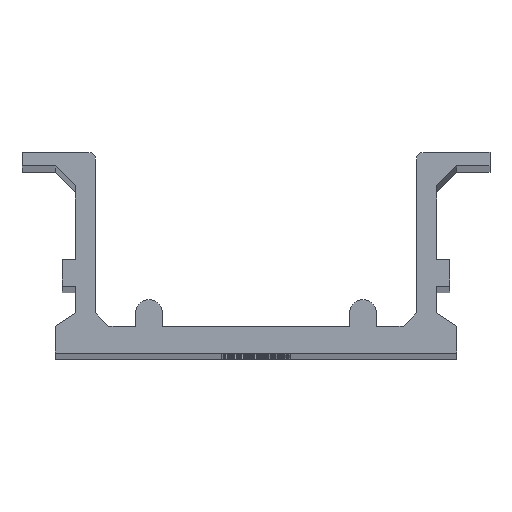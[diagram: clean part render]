
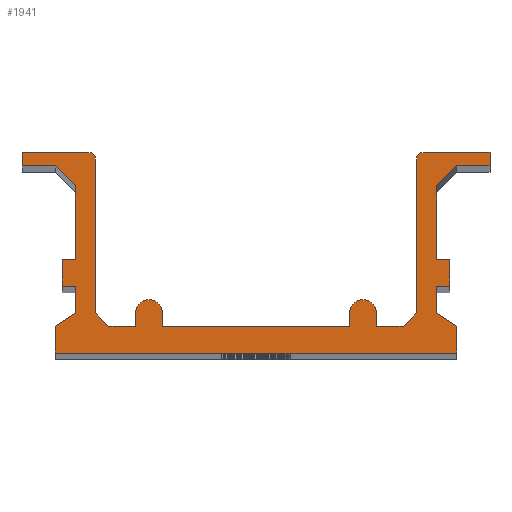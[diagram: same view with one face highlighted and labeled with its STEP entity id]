
A CAD part, top view. The second image highlights one B-rep face of the part: STEP entity #1941.
In plain terms, the highlighted planar face has unit normal (0, 0, 1).
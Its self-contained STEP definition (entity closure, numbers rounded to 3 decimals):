
#91=CIRCLE('',#2109,0.5);
#92=CIRCLE('',#2110,0.5);
#93=CIRCLE('',#2111,1.);
#94=CIRCLE('',#2112,1.);
#187=FACE_OUTER_BOUND('',#283,.T.);
#283=EDGE_LOOP('',(#1457,#1458,#1459,#1460,#1461,#1462,#1463,#1464,#1465,
#1466,#1467,#1468,#1469,#1470,#1471,#1472,#1473,#1474,#1475,#1476,#1477,
#1478,#1479,#1480,#1481,#1482,#1483,#1484,#1485,#1486,#1487,#1488,#1489,
#1490,#1491,#1492,#1493,#1494));
#455=LINE('',#3004,#673);
#456=LINE('',#3006,#674);
#457=LINE('',#3008,#675);
#458=LINE('',#3012,#676);
#459=LINE('',#3014,#677);
#460=LINE('',#3016,#678);
#461=LINE('',#3018,#679);
#462=LINE('',#3020,#680);
#463=LINE('',#3022,#681);
#464=LINE('',#3024,#682);
#465=LINE('',#3026,#683);
#466=LINE('',#3028,#684);
#467=LINE('',#3030,#685);
#468=LINE('',#3032,#686);
#469=LINE('',#3034,#687);
#470=LINE('',#3036,#688);
#471=LINE('',#3038,#689);
#472=LINE('',#3040,#690);
#473=LINE('',#3042,#691);
#474=LINE('',#3044,#692);
#475=LINE('',#3046,#693);
#476=LINE('',#3048,#694);
#477=LINE('',#3050,#695);
#478=LINE('',#3052,#696);
#479=LINE('',#3054,#697);
#480=LINE('',#3056,#698);
#481=LINE('',#3060,#699);
#482=LINE('',#3062,#700);
#483=LINE('',#3064,#701);
#484=LINE('',#3066,#702);
#485=LINE('',#3070,#703);
#486=LINE('',#3072,#704);
#487=LINE('',#3074,#705);
#488=LINE('',#3077,#706);
#673=VECTOR('',#2464,10.);
#674=VECTOR('',#2465,10.);
#675=VECTOR('',#2466,10.);
#676=VECTOR('',#2469,10.);
#677=VECTOR('',#2470,10.);
#678=VECTOR('',#2471,10.);
#679=VECTOR('',#2472,10.);
#680=VECTOR('',#2473,10.);
#681=VECTOR('',#2474,10.);
#682=VECTOR('',#2475,10.);
#683=VECTOR('',#2476,10.);
#684=VECTOR('',#2477,10.);
#685=VECTOR('',#2478,10.);
#686=VECTOR('',#2479,10.);
#687=VECTOR('',#2480,10.);
#688=VECTOR('',#2481,10.);
#689=VECTOR('',#2482,10.);
#690=VECTOR('',#2483,10.);
#691=VECTOR('',#2484,10.);
#692=VECTOR('',#2485,10.);
#693=VECTOR('',#2486,10.);
#694=VECTOR('',#2487,10.);
#695=VECTOR('',#2488,10.);
#696=VECTOR('',#2489,10.);
#697=VECTOR('',#2490,10.);
#698=VECTOR('',#2491,10.);
#699=VECTOR('',#2494,10.);
#700=VECTOR('',#2495,10.);
#701=VECTOR('',#2496,10.);
#702=VECTOR('',#2497,10.);
#703=VECTOR('',#2500,10.);
#704=VECTOR('',#2501,10.);
#705=VECTOR('',#2502,10.);
#706=VECTOR('',#2505,10.);
#891=VERTEX_POINT('',#3002);
#892=VERTEX_POINT('',#3003);
#893=VERTEX_POINT('',#3005);
#894=VERTEX_POINT('',#3007);
#895=VERTEX_POINT('',#3009);
#896=VERTEX_POINT('',#3011);
#897=VERTEX_POINT('',#3013);
#898=VERTEX_POINT('',#3015);
#899=VERTEX_POINT('',#3017);
#900=VERTEX_POINT('',#3019);
#901=VERTEX_POINT('',#3021);
#902=VERTEX_POINT('',#3023);
#903=VERTEX_POINT('',#3025);
#904=VERTEX_POINT('',#3027);
#905=VERTEX_POINT('',#3029);
#906=VERTEX_POINT('',#3031);
#907=VERTEX_POINT('',#3033);
#908=VERTEX_POINT('',#3035);
#909=VERTEX_POINT('',#3037);
#910=VERTEX_POINT('',#3039);
#911=VERTEX_POINT('',#3041);
#912=VERTEX_POINT('',#3043);
#913=VERTEX_POINT('',#3045);
#914=VERTEX_POINT('',#3047);
#915=VERTEX_POINT('',#3049);
#916=VERTEX_POINT('',#3051);
#917=VERTEX_POINT('',#3053);
#918=VERTEX_POINT('',#3055);
#919=VERTEX_POINT('',#3057);
#920=VERTEX_POINT('',#3059);
#921=VERTEX_POINT('',#3061);
#922=VERTEX_POINT('',#3063);
#923=VERTEX_POINT('',#3065);
#924=VERTEX_POINT('',#3067);
#925=VERTEX_POINT('',#3069);
#926=VERTEX_POINT('',#3071);
#927=VERTEX_POINT('',#3073);
#928=VERTEX_POINT('',#3075);
#1127=EDGE_CURVE('',#891,#892,#455,.T.);
#1128=EDGE_CURVE('',#892,#893,#456,.T.);
#1129=EDGE_CURVE('',#893,#894,#457,.T.);
#1130=EDGE_CURVE('',#894,#895,#91,.T.);
#1131=EDGE_CURVE('',#895,#896,#458,.T.);
#1132=EDGE_CURVE('',#896,#897,#459,.T.);
#1133=EDGE_CURVE('',#897,#898,#460,.T.);
#1134=EDGE_CURVE('',#898,#899,#461,.T.);
#1135=EDGE_CURVE('',#899,#900,#462,.T.);
#1136=EDGE_CURVE('',#900,#901,#463,.T.);
#1137=EDGE_CURVE('',#901,#902,#464,.T.);
#1138=EDGE_CURVE('',#902,#903,#465,.T.);
#1139=EDGE_CURVE('',#903,#904,#466,.T.);
#1140=EDGE_CURVE('',#904,#905,#467,.T.);
#1141=EDGE_CURVE('',#905,#906,#468,.T.);
#1142=EDGE_CURVE('',#906,#907,#469,.T.);
#1143=EDGE_CURVE('',#907,#908,#470,.T.);
#1144=EDGE_CURVE('',#908,#909,#471,.T.);
#1145=EDGE_CURVE('',#909,#910,#472,.T.);
#1146=EDGE_CURVE('',#910,#911,#473,.T.);
#1147=EDGE_CURVE('',#911,#912,#474,.T.);
#1148=EDGE_CURVE('',#912,#913,#475,.T.);
#1149=EDGE_CURVE('',#913,#914,#476,.T.);
#1150=EDGE_CURVE('',#914,#915,#477,.T.);
#1151=EDGE_CURVE('',#915,#916,#478,.T.);
#1152=EDGE_CURVE('',#916,#917,#479,.T.);
#1153=EDGE_CURVE('',#917,#918,#480,.T.);
#1154=EDGE_CURVE('',#918,#919,#92,.T.);
#1155=EDGE_CURVE('',#919,#920,#481,.T.);
#1156=EDGE_CURVE('',#920,#921,#482,.T.);
#1157=EDGE_CURVE('',#921,#922,#483,.T.);
#1158=EDGE_CURVE('',#922,#923,#484,.T.);
#1159=EDGE_CURVE('',#923,#924,#93,.T.);
#1160=EDGE_CURVE('',#924,#925,#485,.T.);
#1161=EDGE_CURVE('',#925,#926,#486,.T.);
#1162=EDGE_CURVE('',#926,#927,#487,.T.);
#1163=EDGE_CURVE('',#927,#928,#94,.T.);
#1164=EDGE_CURVE('',#928,#891,#488,.T.);
#1457=ORIENTED_EDGE('',*,*,#1127,.T.);
#1458=ORIENTED_EDGE('',*,*,#1128,.T.);
#1459=ORIENTED_EDGE('',*,*,#1129,.T.);
#1460=ORIENTED_EDGE('',*,*,#1130,.T.);
#1461=ORIENTED_EDGE('',*,*,#1131,.T.);
#1462=ORIENTED_EDGE('',*,*,#1132,.T.);
#1463=ORIENTED_EDGE('',*,*,#1133,.T.);
#1464=ORIENTED_EDGE('',*,*,#1134,.T.);
#1465=ORIENTED_EDGE('',*,*,#1135,.T.);
#1466=ORIENTED_EDGE('',*,*,#1136,.T.);
#1467=ORIENTED_EDGE('',*,*,#1137,.T.);
#1468=ORIENTED_EDGE('',*,*,#1138,.T.);
#1469=ORIENTED_EDGE('',*,*,#1139,.T.);
#1470=ORIENTED_EDGE('',*,*,#1140,.T.);
#1471=ORIENTED_EDGE('',*,*,#1141,.T.);
#1472=ORIENTED_EDGE('',*,*,#1142,.T.);
#1473=ORIENTED_EDGE('',*,*,#1143,.T.);
#1474=ORIENTED_EDGE('',*,*,#1144,.T.);
#1475=ORIENTED_EDGE('',*,*,#1145,.T.);
#1476=ORIENTED_EDGE('',*,*,#1146,.T.);
#1477=ORIENTED_EDGE('',*,*,#1147,.T.);
#1478=ORIENTED_EDGE('',*,*,#1148,.T.);
#1479=ORIENTED_EDGE('',*,*,#1149,.T.);
#1480=ORIENTED_EDGE('',*,*,#1150,.T.);
#1481=ORIENTED_EDGE('',*,*,#1151,.T.);
#1482=ORIENTED_EDGE('',*,*,#1152,.T.);
#1483=ORIENTED_EDGE('',*,*,#1153,.T.);
#1484=ORIENTED_EDGE('',*,*,#1154,.T.);
#1485=ORIENTED_EDGE('',*,*,#1155,.T.);
#1486=ORIENTED_EDGE('',*,*,#1156,.T.);
#1487=ORIENTED_EDGE('',*,*,#1157,.T.);
#1488=ORIENTED_EDGE('',*,*,#1158,.T.);
#1489=ORIENTED_EDGE('',*,*,#1159,.T.);
#1490=ORIENTED_EDGE('',*,*,#1160,.T.);
#1491=ORIENTED_EDGE('',*,*,#1161,.T.);
#1492=ORIENTED_EDGE('',*,*,#1162,.T.);
#1493=ORIENTED_EDGE('',*,*,#1163,.T.);
#1494=ORIENTED_EDGE('',*,*,#1164,.T.);
#1853=PLANE('',#2108);
#1941=ADVANCED_FACE('',(#187),#1853,.T.);
#2108=AXIS2_PLACEMENT_3D('',#3001,#2462,#2463);
#2109=AXIS2_PLACEMENT_3D('',#3010,#2467,#2468);
#2110=AXIS2_PLACEMENT_3D('',#3058,#2492,#2493);
#2111=AXIS2_PLACEMENT_3D('',#3068,#2498,#2499);
#2112=AXIS2_PLACEMENT_3D('',#3076,#2503,#2504);
#2462=DIRECTION('center_axis',(0.,0.,1.));
#2463=DIRECTION('ref_axis',(1.,0.,0.));
#2464=DIRECTION('',(-1.,0.,0.));
#2465=DIRECTION('',(-0.707,0.707,0.));
#2466=DIRECTION('',(0.,1.,0.));
#2467=DIRECTION('center_axis',(0.,0.,1.));
#2468=DIRECTION('ref_axis',(1.,0.,0.));
#2469=DIRECTION('',(-1.,0.,0.));
#2470=DIRECTION('',(0.,-1.,0.));
#2471=DIRECTION('',(1.,0.,0.));
#2472=DIRECTION('',(0.707,-0.707,0.));
#2473=DIRECTION('',(0.,-1.,0.));
#2474=DIRECTION('',(-1.,0.,0.));
#2475=DIRECTION('',(0.,-1.,0.));
#2476=DIRECTION('',(1.,0.,0.));
#2477=DIRECTION('',(0.,-1.,0.));
#2478=DIRECTION('',(-0.832,-0.555,0.));
#2479=DIRECTION('',(0.,-1.,0.));
#2480=DIRECTION('',(1.,0.,0.));
#2481=DIRECTION('',(0.,1.,0.));
#2482=DIRECTION('',(-0.832,0.555,0.));
#2483=DIRECTION('',(0.,1.,0.));
#2484=DIRECTION('',(1.,0.,0.));
#2485=DIRECTION('',(0.,1.,0.));
#2486=DIRECTION('',(-1.,0.,0.));
#2487=DIRECTION('',(0.,1.,0.));
#2488=DIRECTION('',(0.707,0.707,0.));
#2489=DIRECTION('',(1.,0.,0.));
#2490=DIRECTION('',(0.,1.,0.));
#2491=DIRECTION('',(-1.,0.,0.));
#2492=DIRECTION('center_axis',(0.,0.,1.));
#2493=DIRECTION('ref_axis',(0.,1.,0.));
#2494=DIRECTION('',(0.,-1.,0.));
#2495=DIRECTION('',(-0.707,-0.707,0.));
#2496=DIRECTION('',(-1.,0.,0.));
#2497=DIRECTION('',(0.,1.,0.));
#2498=DIRECTION('center_axis',(0.,0.,1.));
#2499=DIRECTION('ref_axis',(1.,0.,0.));
#2500=DIRECTION('',(0.,-1.,0.));
#2501=DIRECTION('',(-1.,0.,0.));
#2502=DIRECTION('',(0.,1.,0.));
#2503=DIRECTION('center_axis',(0.,0.,1.));
#2504=DIRECTION('ref_axis',(1.,0.,0.));
#2505=DIRECTION('',(0.,-1.,0.));
#3001=CARTESIAN_POINT('Origin',(0.,7.5,277.));
#3002=CARTESIAN_POINT('',(-9.,2.,277.));
#3003=CARTESIAN_POINT('',(-11.,2.,277.));
#3004=CARTESIAN_POINT('',(-9.,2.,277.));
#3005=CARTESIAN_POINT('',(-12.,3.,277.));
#3006=CARTESIAN_POINT('',(-11.,2.,277.));
#3007=CARTESIAN_POINT('',(-12.,14.5,277.));
#3008=CARTESIAN_POINT('',(-12.,3.,277.));
#3009=CARTESIAN_POINT('',(-12.5,15.,277.));
#3010=CARTESIAN_POINT('Origin',(-12.5,14.5,277.));
#3011=CARTESIAN_POINT('',(-17.5,15.,277.));
#3012=CARTESIAN_POINT('',(-12.5,15.,277.));
#3013=CARTESIAN_POINT('',(-17.5,14.,277.));
#3014=CARTESIAN_POINT('',(-17.5,15.,277.));
#3015=CARTESIAN_POINT('',(-15.,14.,277.));
#3016=CARTESIAN_POINT('',(-17.5,14.,277.));
#3017=CARTESIAN_POINT('',(-13.5,12.5,277.));
#3018=CARTESIAN_POINT('',(-15.,14.,277.));
#3019=CARTESIAN_POINT('',(-13.5,7.,277.));
#3020=CARTESIAN_POINT('',(-13.5,12.5,277.));
#3021=CARTESIAN_POINT('',(-14.5,7.,277.));
#3022=CARTESIAN_POINT('',(-13.5,7.,277.));
#3023=CARTESIAN_POINT('',(-14.5,5.,277.));
#3024=CARTESIAN_POINT('',(-14.5,7.,277.));
#3025=CARTESIAN_POINT('',(-13.5,5.,277.));
#3026=CARTESIAN_POINT('',(-14.5,5.,277.));
#3027=CARTESIAN_POINT('',(-13.5,3.,277.));
#3028=CARTESIAN_POINT('',(-13.5,5.,277.));
#3029=CARTESIAN_POINT('',(-15.,2.,277.));
#3030=CARTESIAN_POINT('',(-13.5,3.,277.));
#3031=CARTESIAN_POINT('',(-15.,0.,277.));
#3032=CARTESIAN_POINT('',(-15.,2.,277.));
#3033=CARTESIAN_POINT('',(15.,0.,277.));
#3034=CARTESIAN_POINT('',(-15.,0.,277.));
#3035=CARTESIAN_POINT('',(15.,2.,277.));
#3036=CARTESIAN_POINT('',(15.,0.,277.));
#3037=CARTESIAN_POINT('',(13.5,3.,277.));
#3038=CARTESIAN_POINT('',(15.,2.,277.));
#3039=CARTESIAN_POINT('',(13.5,5.,277.));
#3040=CARTESIAN_POINT('',(13.5,3.,277.));
#3041=CARTESIAN_POINT('',(14.5,5.,277.));
#3042=CARTESIAN_POINT('',(13.5,5.,277.));
#3043=CARTESIAN_POINT('',(14.5,7.,277.));
#3044=CARTESIAN_POINT('',(14.5,5.,277.));
#3045=CARTESIAN_POINT('',(13.5,7.,277.));
#3046=CARTESIAN_POINT('',(14.5,7.,277.));
#3047=CARTESIAN_POINT('',(13.5,12.5,277.));
#3048=CARTESIAN_POINT('',(13.5,7.,277.));
#3049=CARTESIAN_POINT('',(15.,14.,277.));
#3050=CARTESIAN_POINT('',(13.5,12.5,277.));
#3051=CARTESIAN_POINT('',(17.5,14.,277.));
#3052=CARTESIAN_POINT('',(15.,14.,277.));
#3053=CARTESIAN_POINT('',(17.5,15.,277.));
#3054=CARTESIAN_POINT('',(17.5,14.,277.));
#3055=CARTESIAN_POINT('',(12.5,15.,277.));
#3056=CARTESIAN_POINT('',(17.5,15.,277.));
#3057=CARTESIAN_POINT('',(12.,14.5,277.));
#3058=CARTESIAN_POINT('Origin',(12.5,14.5,277.));
#3059=CARTESIAN_POINT('',(12.,3.,277.));
#3060=CARTESIAN_POINT('',(12.,14.5,277.));
#3061=CARTESIAN_POINT('',(11.,2.,277.));
#3062=CARTESIAN_POINT('',(12.,3.,277.));
#3063=CARTESIAN_POINT('',(9.,2.,277.));
#3064=CARTESIAN_POINT('',(11.,2.,277.));
#3065=CARTESIAN_POINT('',(9.,3.,277.));
#3066=CARTESIAN_POINT('',(9.,2.,277.));
#3067=CARTESIAN_POINT('',(7.,3.,277.));
#3068=CARTESIAN_POINT('Origin',(8.,3.,277.));
#3069=CARTESIAN_POINT('',(7.,2.,277.));
#3070=CARTESIAN_POINT('',(7.,3.,277.));
#3071=CARTESIAN_POINT('',(-7.,2.,277.));
#3072=CARTESIAN_POINT('',(7.,2.,277.));
#3073=CARTESIAN_POINT('',(-7.,3.,277.));
#3074=CARTESIAN_POINT('',(-7.,2.,277.));
#3075=CARTESIAN_POINT('',(-9.,3.,277.));
#3076=CARTESIAN_POINT('Origin',(-8.,3.,277.));
#3077=CARTESIAN_POINT('',(-9.,3.,277.));
